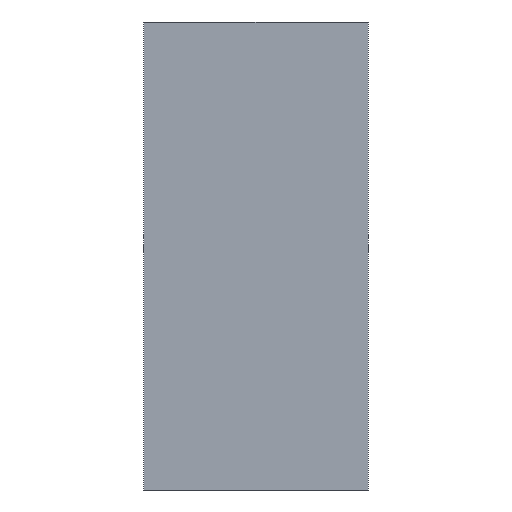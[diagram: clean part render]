
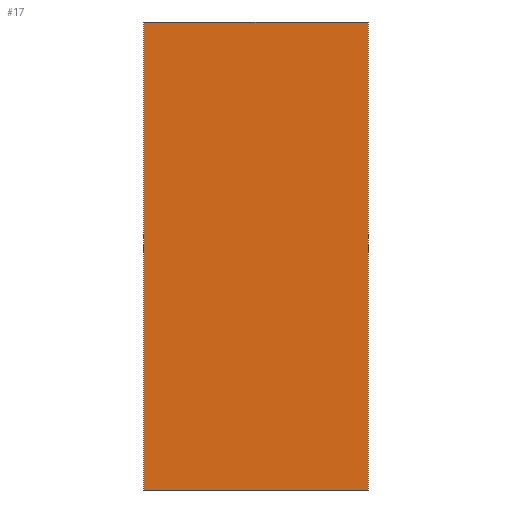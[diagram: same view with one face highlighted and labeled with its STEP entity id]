
A CAD part, left-side view. The second image highlights one B-rep face of the part: STEP entity #17.
In plain terms, the highlighted planar face has unit normal (-1, 0, 0).
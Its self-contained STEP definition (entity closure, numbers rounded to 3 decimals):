
#17 = ADVANCED_FACE('',(#18),#32,.F.);
#18 = FACE_BOUND('',#19,.F.);
#19 = EDGE_LOOP('',(#20,#55,#83,#111));
#20 = ORIENTED_EDGE('',*,*,#21,.F.);
#21 = EDGE_CURVE('',#22,#24,#26,.T.);
#22 = VERTEX_POINT('',#23);
#23 = CARTESIAN_POINT('',(456.,-12.,62.));
#24 = VERTEX_POINT('',#25);
#25 = CARTESIAN_POINT('',(456.,-12.,112.));
#26 = SURFACE_CURVE('',#27,(#31,#43),.PCURVE_S1.);
#27 = LINE('',#28,#29);
#28 = CARTESIAN_POINT('',(456.,-12.,62.));
#29 = VECTOR('',#30,1.);
#30 = DIRECTION('',(0.,0.,1.));
#31 = PCURVE('',#32,#37);
#32 = PLANE('',#33);
#33 = AXIS2_PLACEMENT_3D('',#34,#35,#36);
#34 = CARTESIAN_POINT('',(456.,-12.,62.));
#35 = DIRECTION('',(1.,0.,0.));
#36 = DIRECTION('',(0.,0.,1.));
#37 = DEFINITIONAL_REPRESENTATION('',(#38),#42);
#38 = LINE('',#39,#40);
#39 = CARTESIAN_POINT('',(0.,0.));
#40 = VECTOR('',#41,1.);
#41 = DIRECTION('',(1.,0.));
#42 = ( GEOMETRIC_REPRESENTATION_CONTEXT(2) 
PARAMETRIC_REPRESENTATION_CONTEXT() REPRESENTATION_CONTEXT('2D SPACE',''
  ) );
#43 = PCURVE('',#44,#49);
#44 = PLANE('',#45);
#45 = AXIS2_PLACEMENT_3D('',#46,#47,#48);
#46 = CARTESIAN_POINT('',(456.,-12.,62.));
#47 = DIRECTION('',(0.,1.,0.));
#48 = DIRECTION('',(0.,0.,1.));
#49 = DEFINITIONAL_REPRESENTATION('',(#50),#54);
#50 = LINE('',#51,#52);
#51 = CARTESIAN_POINT('',(0.,0.));
#52 = VECTOR('',#53,1.);
#53 = DIRECTION('',(1.,0.));
#54 = ( GEOMETRIC_REPRESENTATION_CONTEXT(2) 
PARAMETRIC_REPRESENTATION_CONTEXT() REPRESENTATION_CONTEXT('2D SPACE',''
  ) );
#55 = ORIENTED_EDGE('',*,*,#56,.T.);
#56 = EDGE_CURVE('',#22,#57,#59,.T.);
#57 = VERTEX_POINT('',#58);
#58 = CARTESIAN_POINT('',(456.,12.,62.));
#59 = SURFACE_CURVE('',#60,(#64,#71),.PCURVE_S1.);
#60 = LINE('',#61,#62);
#61 = CARTESIAN_POINT('',(456.,-12.,62.));
#62 = VECTOR('',#63,1.);
#63 = DIRECTION('',(0.,1.,0.));
#64 = PCURVE('',#32,#65);
#65 = DEFINITIONAL_REPRESENTATION('',(#66),#70);
#66 = LINE('',#67,#68);
#67 = CARTESIAN_POINT('',(0.,0.));
#68 = VECTOR('',#69,1.);
#69 = DIRECTION('',(0.,-1.));
#70 = ( GEOMETRIC_REPRESENTATION_CONTEXT(2) 
PARAMETRIC_REPRESENTATION_CONTEXT() REPRESENTATION_CONTEXT('2D SPACE',''
  ) );
#71 = PCURVE('',#72,#77);
#72 = PLANE('',#73);
#73 = AXIS2_PLACEMENT_3D('',#74,#75,#76);
#74 = CARTESIAN_POINT('',(456.,-12.,62.));
#75 = DIRECTION('',(0.,0.,1.));
#76 = DIRECTION('',(1.,0.,0.));
#77 = DEFINITIONAL_REPRESENTATION('',(#78),#82);
#78 = LINE('',#79,#80);
#79 = CARTESIAN_POINT('',(0.,0.));
#80 = VECTOR('',#81,1.);
#81 = DIRECTION('',(0.,1.));
#82 = ( GEOMETRIC_REPRESENTATION_CONTEXT(2) 
PARAMETRIC_REPRESENTATION_CONTEXT() REPRESENTATION_CONTEXT('2D SPACE',''
  ) );
#83 = ORIENTED_EDGE('',*,*,#84,.T.);
#84 = EDGE_CURVE('',#57,#85,#87,.T.);
#85 = VERTEX_POINT('',#86);
#86 = CARTESIAN_POINT('',(456.,12.,112.));
#87 = SURFACE_CURVE('',#88,(#92,#99),.PCURVE_S1.);
#88 = LINE('',#89,#90);
#89 = CARTESIAN_POINT('',(456.,12.,62.));
#90 = VECTOR('',#91,1.);
#91 = DIRECTION('',(0.,0.,1.));
#92 = PCURVE('',#32,#93);
#93 = DEFINITIONAL_REPRESENTATION('',(#94),#98);
#94 = LINE('',#95,#96);
#95 = CARTESIAN_POINT('',(0.,-24.));
#96 = VECTOR('',#97,1.);
#97 = DIRECTION('',(1.,0.));
#98 = ( GEOMETRIC_REPRESENTATION_CONTEXT(2) 
PARAMETRIC_REPRESENTATION_CONTEXT() REPRESENTATION_CONTEXT('2D SPACE',''
  ) );
#99 = PCURVE('',#100,#105);
#100 = PLANE('',#101);
#101 = AXIS2_PLACEMENT_3D('',#102,#103,#104);
#102 = CARTESIAN_POINT('',(456.,12.,62.));
#103 = DIRECTION('',(0.,1.,0.));
#104 = DIRECTION('',(0.,0.,1.));
#105 = DEFINITIONAL_REPRESENTATION('',(#106),#110);
#106 = LINE('',#107,#108);
#107 = CARTESIAN_POINT('',(0.,0.));
#108 = VECTOR('',#109,1.);
#109 = DIRECTION('',(1.,0.));
#110 = ( GEOMETRIC_REPRESENTATION_CONTEXT(2) 
PARAMETRIC_REPRESENTATION_CONTEXT() REPRESENTATION_CONTEXT('2D SPACE',''
  ) );
#111 = ORIENTED_EDGE('',*,*,#112,.F.);
#112 = EDGE_CURVE('',#24,#85,#113,.T.);
#113 = SURFACE_CURVE('',#114,(#118,#125),.PCURVE_S1.);
#114 = LINE('',#115,#116);
#115 = CARTESIAN_POINT('',(456.,-12.,112.));
#116 = VECTOR('',#117,1.);
#117 = DIRECTION('',(0.,1.,0.));
#118 = PCURVE('',#32,#119);
#119 = DEFINITIONAL_REPRESENTATION('',(#120),#124);
#120 = LINE('',#121,#122);
#121 = CARTESIAN_POINT('',(50.,0.));
#122 = VECTOR('',#123,1.);
#123 = DIRECTION('',(0.,-1.));
#124 = ( GEOMETRIC_REPRESENTATION_CONTEXT(2) 
PARAMETRIC_REPRESENTATION_CONTEXT() REPRESENTATION_CONTEXT('2D SPACE',''
  ) );
#125 = PCURVE('',#126,#131);
#126 = PLANE('',#127);
#127 = AXIS2_PLACEMENT_3D('',#128,#129,#130);
#128 = CARTESIAN_POINT('',(456.,-12.,112.));
#129 = DIRECTION('',(0.,0.,1.));
#130 = DIRECTION('',(1.,0.,0.));
#131 = DEFINITIONAL_REPRESENTATION('',(#132),#136);
#132 = LINE('',#133,#134);
#133 = CARTESIAN_POINT('',(0.,0.));
#134 = VECTOR('',#135,1.);
#135 = DIRECTION('',(0.,1.));
#136 = ( GEOMETRIC_REPRESENTATION_CONTEXT(2) 
PARAMETRIC_REPRESENTATION_CONTEXT() REPRESENTATION_CONTEXT('2D SPACE',''
  ) );
